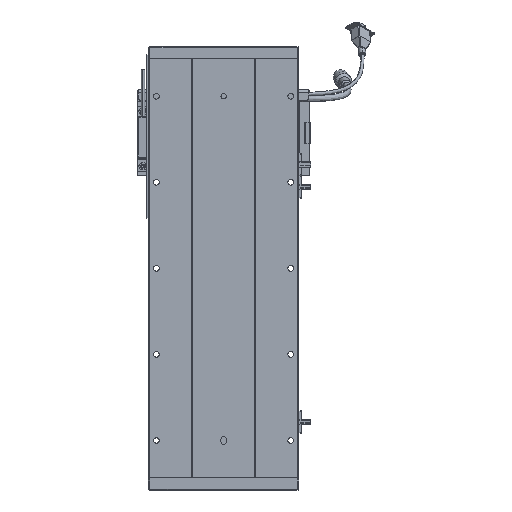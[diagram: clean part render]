
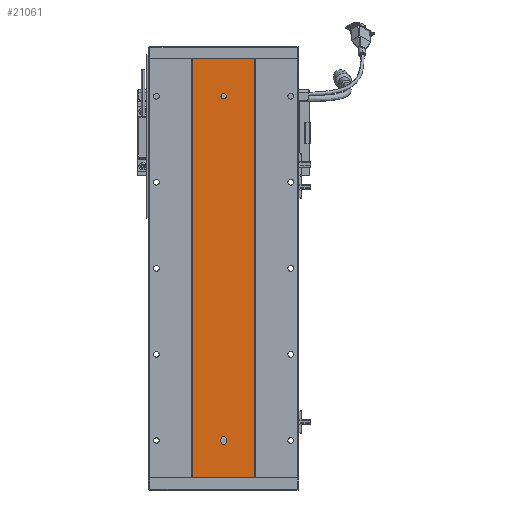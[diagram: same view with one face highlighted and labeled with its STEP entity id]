
A CAD part, front view. The second image highlights one B-rep face of the part: STEP entity #21061.
In plain terms, the highlighted planar face has unit normal (0, -1, 0).
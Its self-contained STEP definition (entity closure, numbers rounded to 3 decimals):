
#177 = VERTEX_POINT ( 'NONE', #70246 ) ;
#731 = CARTESIAN_POINT ( 'NONE',  ( 3280.529, 1415.701, 42. ) ) ;
#926 = LINE ( 'NONE', #64443, #26206 ) ;
#3208 = CARTESIAN_POINT ( 'NONE',  ( 3277.529, 1415.701, 42. ) ) ;
#3691 = EDGE_CURVE ( 'NONE', #17392, #34031, #47654, .T. ) ;
#4450 = CARTESIAN_POINT ( 'NONE',  ( 3316.311, 1415.701, 0. ) ) ;
#4600 = DIRECTION ( 'NONE',  ( 0., 0., -1. ) ) ;
#4838 = DIRECTION ( 'NONE',  ( 0., 1., 0. ) ) ;
#5070 = AXIS2_PLACEMENT_3D ( 'NONE', #731, #39669, #34559 ) ;
#6543 = VERTEX_POINT ( 'NONE', #49321 ) ;
#8591 = AXIS2_PLACEMENT_3D ( 'NONE', #16619, #38744, #55608 ) ;
#9026 = VECTOR ( 'NONE', #28018, 1000. ) ;
#9702 = CARTESIAN_POINT ( 'NONE',  ( 3244.748, 1415.701, 0. ) ) ;
#10230 = DIRECTION ( 'NONE',  ( 0., -1., 0. ) ) ;
#10821 = DIRECTION ( 'NONE',  ( 0., 0., -1. ) ) ;
#12993 = ORIENTED_EDGE ( 'NONE', *, *, #60072, .F. ) ;
#13440 = LINE ( 'NONE', #23327, #60492 ) ;
#13874 = DIRECTION ( 'NONE',  ( 0., 0., -1. ) ) ;
#14730 = DIRECTION ( 'NONE',  ( 0., 0., 1. ) ) ;
#15654 = ORIENTED_EDGE ( 'NONE', *, *, #55695, .F. ) ;
#15817 = DIRECTION ( 'NONE',  ( 0., 0., -1. ) ) ;
#16031 = DIRECTION ( 'NONE',  ( 0., 0., 1. ) ) ;
#16619 = CARTESIAN_POINT ( 'NONE',  ( 3280.529, 1415.701, 443.5 ) ) ;
#17036 = ORIENTED_EDGE ( 'NONE', *, *, #68904, .T. ) ;
#17392 = VERTEX_POINT ( 'NONE', #52176 ) ;
#19291 = AXIS2_PLACEMENT_3D ( 'NONE', #26779, #10230, #15817 ) ;
#20806 = VERTEX_POINT ( 'NONE', #3208 ) ;
#20981 = EDGE_CURVE ( 'NONE', #20806, #34496, #47226, .T. ) ;
#21061 = ADVANCED_FACE ( 'NONE', ( #52491, #70857, #32406 ), #37000, .F. ) ;
#21149 = CARTESIAN_POINT ( 'NONE',  ( 3244.748, 1415.701, 487. ) ) ;
#22238 = EDGE_LOOP ( 'NONE', ( #17036, #41944, #22351, #30375 ) ) ;
#22351 = ORIENTED_EDGE ( 'NONE', *, *, #3691, .F. ) ;
#23327 = CARTESIAN_POINT ( 'NONE',  ( 3244.748, 1415.701, 0. ) ) ;
#24021 = CARTESIAN_POINT ( 'NONE',  ( 3277.529, 1415.701, 45. ) ) ;
#24745 = DIRECTION ( 'NONE',  ( 1., 0., 0. ) ) ;
#25580 = LINE ( 'NONE', #32353, #47033 ) ;
#26206 = VECTOR ( 'NONE', #14730, 1000. ) ;
#26450 = VERTEX_POINT ( 'NONE', #9702 ) ;
#26762 = EDGE_CURVE ( 'NONE', #177, #72012, #60965, .T. ) ;
#26779 = CARTESIAN_POINT ( 'NONE',  ( 3280.529, 1415.701, 45. ) ) ;
#28018 = DIRECTION ( 'NONE',  ( 0., 0., -1. ) ) ;
#28200 = EDGE_LOOP ( 'NONE', ( #12993, #39349 ) ) ;
#28325 = AXIS2_PLACEMENT_3D ( 'NONE', #69722, #31132, #13874 ) ;
#29025 = VERTEX_POINT ( 'NONE', #62924 ) ;
#29911 = CARTESIAN_POINT ( 'NONE',  ( 3277.529, 1415.701, 45. ) ) ;
#30375 = ORIENTED_EDGE ( 'NONE', *, *, #30653, .T. ) ;
#30505 = CARTESIAN_POINT ( 'NONE',  ( 3280.529, 1415.701, 443.5 ) ) ;
#30653 = EDGE_CURVE ( 'NONE', #17392, #26450, #49974, .T. ) ;
#31132 = DIRECTION ( 'NONE',  ( 0., -1., 0. ) ) ;
#32353 = CARTESIAN_POINT ( 'NONE',  ( 3316.311, 1415.701, 487. ) ) ;
#32406 = FACE_OUTER_BOUND ( 'NONE', #22238, .T. ) ;
#32896 = AXIS2_PLACEMENT_3D ( 'NONE', #30505, #53932, #10821 ) ;
#33424 = AXIS2_PLACEMENT_3D ( 'NONE', #21149, #4838, #16031 ) ;
#34031 = VERTEX_POINT ( 'NONE', #65218 ) ;
#34496 = VERTEX_POINT ( 'NONE', #43870 ) ;
#34559 = DIRECTION ( 'NONE',  ( 0., 0., -1. ) ) ;
#34915 = ORIENTED_EDGE ( 'NONE', *, *, #26762, .F. ) ;
#35590 = LINE ( 'NONE', #24021, #51328 ) ;
#37000 = PLANE ( 'NONE',  #33424 ) ;
#37064 = EDGE_LOOP ( 'NONE', ( #66460, #63457, #34915, #57118, #15654 ) ) ;
#37188 = EDGE_CURVE ( 'NONE', #72012, #20806, #35590, .T. ) ;
#38744 = DIRECTION ( 'NONE',  ( 0., -1., 0. ) ) ;
#39175 = EDGE_CURVE ( 'NONE', #29025, #6543, #45791, .T. ) ;
#39349 = ORIENTED_EDGE ( 'NONE', *, *, #39175, .F. ) ;
#39669 = DIRECTION ( 'NONE',  ( 0., -1., 0. ) ) ;
#40390 = CARTESIAN_POINT ( 'NONE',  ( 3283.529, 1415.701, 42. ) ) ;
#41944 = ORIENTED_EDGE ( 'NONE', *, *, #70637, .F. ) ;
#42373 = VECTOR ( 'NONE', #48691, 1000. ) ;
#43539 = CIRCLE ( 'NONE', #8591, 3. ) ;
#43870 = CARTESIAN_POINT ( 'NONE',  ( 3280.529, 1415.701, 39. ) ) ;
#45791 = CIRCLE ( 'NONE', #32896, 3. ) ;
#47033 = VECTOR ( 'NONE', #4600, 1000. ) ;
#47226 = CIRCLE ( 'NONE', #28325, 3. ) ;
#47654 = LINE ( 'NONE', #60411, #42373 ) ;
#48691 = DIRECTION ( 'NONE',  ( 1., 0., 0. ) ) ;
#49321 = CARTESIAN_POINT ( 'NONE',  ( 3280.529, 1415.701, 440.5 ) ) ;
#49974 = LINE ( 'NONE', #68016, #9026 ) ;
#51328 = VECTOR ( 'NONE', #63267, 1000. ) ;
#51865 = CIRCLE ( 'NONE', #5070, 3. ) ;
#52176 = CARTESIAN_POINT ( 'NONE',  ( 3244.748, 1415.701, 487. ) ) ;
#52491 = FACE_BOUND ( 'NONE', #37064, .T. ) ;
#53932 = DIRECTION ( 'NONE',  ( 0., -1., 0. ) ) ;
#55608 = DIRECTION ( 'NONE',  ( 0., 0., -1. ) ) ;
#55695 = EDGE_CURVE ( 'NONE', #34496, #65682, #51865, .T. ) ;
#57118 = ORIENTED_EDGE ( 'NONE', *, *, #64546, .F. ) ;
#59966 = VERTEX_POINT ( 'NONE', #4450 ) ;
#60072 = EDGE_CURVE ( 'NONE', #6543, #29025, #43539, .T. ) ;
#60411 = CARTESIAN_POINT ( 'NONE',  ( 3244.748, 1415.701, 487. ) ) ;
#60492 = VECTOR ( 'NONE', #24745, 1000. ) ;
#60965 = CIRCLE ( 'NONE', #19291, 3. ) ;
#62924 = CARTESIAN_POINT ( 'NONE',  ( 3280.529, 1415.701, 446.5 ) ) ;
#63267 = DIRECTION ( 'NONE',  ( 0., 0., -1. ) ) ;
#63457 = ORIENTED_EDGE ( 'NONE', *, *, #37188, .F. ) ;
#64443 = CARTESIAN_POINT ( 'NONE',  ( 3283.529, 1415.701, 45. ) ) ;
#64546 = EDGE_CURVE ( 'NONE', #65682, #177, #926, .T. ) ;
#65218 = CARTESIAN_POINT ( 'NONE',  ( 3316.311, 1415.701, 487. ) ) ;
#65682 = VERTEX_POINT ( 'NONE', #40390 ) ;
#66460 = ORIENTED_EDGE ( 'NONE', *, *, #20981, .F. ) ;
#68016 = CARTESIAN_POINT ( 'NONE',  ( 3244.748, 1415.701, 487. ) ) ;
#68904 = EDGE_CURVE ( 'NONE', #26450, #59966, #13440, .T. ) ;
#69722 = CARTESIAN_POINT ( 'NONE',  ( 3280.529, 1415.701, 42. ) ) ;
#70246 = CARTESIAN_POINT ( 'NONE',  ( 3283.529, 1415.701, 45. ) ) ;
#70637 = EDGE_CURVE ( 'NONE', #34031, #59966, #25580, .T. ) ;
#70857 = FACE_BOUND ( 'NONE', #28200, .T. ) ;
#72012 = VERTEX_POINT ( 'NONE', #29911 ) ;
